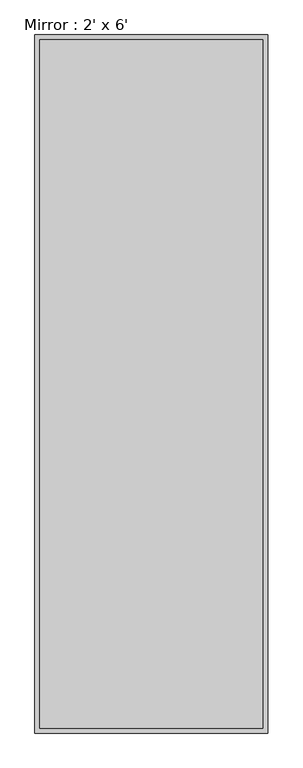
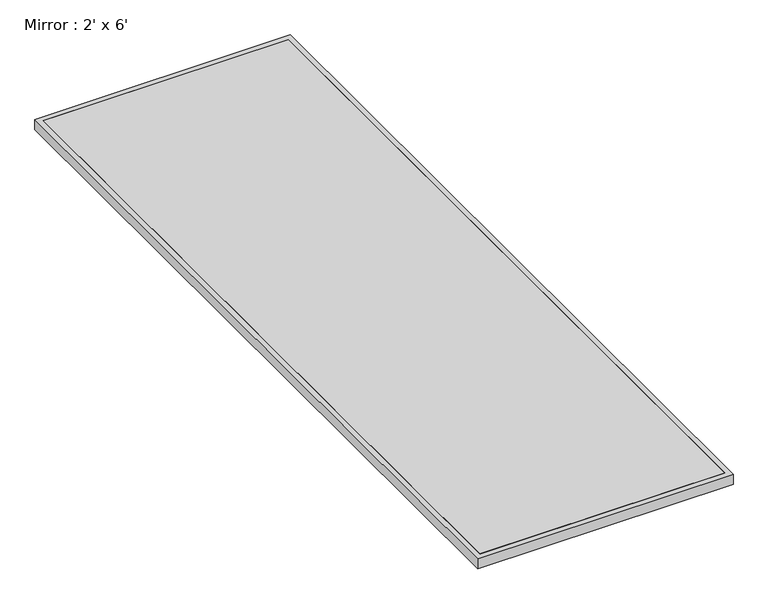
"""IFC4 building model written with IfcOpenShell, lengths in millimetres: furniture geometry, Mirror : 2' x 6'."""

import ifcopenshell
import ifcopenshell.guid

model = None  # the IFC model being written
_history = None  # IfcOwnerHistory: only IFC2X3 demands one
_inside = {}  # id of a spatial element -> (the spatial element, [elements in it])
_under = {}  # id of a project, library or spatial element -> (it, [spatial elements below it])
_declared = {}  # id of a project -> (the project, [libraries it declares])
_typed = {}  # id of a type object -> (the type object, [elements of that type])
_made_of = {}  # id of a material, layer set ... -> (it, [elements and type objects made of it])


def new_model(schema):
    """Start an empty IFC model of exactly this schema.

    Asked for "IFC4X3", IfcOpenShell would pick the latest addendum, in which some entities
    have other attributes; the version numbers below select the first issue.
    IFC2X3 requires an IfcOwnerHistory on every rooted entity: one is made here for all.
    """
    global model, _history
    if schema == "IFC4X3":
        model = ifcopenshell.file(schema_version=(4, 3, 0, 0))
    else:
        model = ifcopenshell.file(schema=schema)
    _inside.clear()
    _under.clear()
    _declared.clear()
    _typed.clear()
    _made_of.clear()
    _history = None
    if model.schema == "IFC2X3":
        org = make("IfcOrganization", Name="unknown")
        user = make(
            "IfcPersonAndOrganization",
            ThePerson=make("IfcPerson", FamilyName="unknown"),
            TheOrganization=org,
        )
        app = make(
            "IfcApplication",
            ApplicationDeveloper=org,
            Version="unknown",
            ApplicationFullName="unknown",
            ApplicationIdentifier="unknown",
        )
        _history = make(
            "IfcOwnerHistory",
            OwningUser=user,
            OwningApplication=app,
            ChangeAction="ADDED",
            CreationDate=0,
        )
    return model


def make(cls, **values):
    """One entity of the class cls with the attributes given. An attribute that is None is left unset."""
    return model.create_entity(
        cls, **{name: value for name, value in values.items() if value is not None}
    )


def rooted(cls, **values):
    """An entity with a GlobalId (a new one), such as an element, a storey or a relation."""
    return make(cls, GlobalId=ifcopenshell.guid.new(), OwnerHistory=_history, **values)


def si_unit(unit_type, name, prefix=None):
    """IfcSIUnit, for example si_unit("LENGTHUNIT", "METRE", prefix="MILLI")."""
    return make("IfcSIUnit", UnitType=unit_type, Prefix=prefix, Name=name)


def assignment(units):
    """IfcUnitAssignment: the units of a project."""
    return None if units is None else make("IfcUnitAssignment", Units=units)


def point(xyz):
    """IfcCartesianPoint."""
    return None if xyz is None else make("IfcCartesianPoint", Coordinates=xyz)


def direction(xyz):
    """IfcDirection."""
    return None if xyz is None else make("IfcDirection", DirectionRatios=xyz)


def frame(location, z_axis=None, x_axis=None):
    """IfcAxis2Placement3D, a coordinate frame: its origin and axes. An axis left out is left unset."""
    return make(
        "IfcAxis2Placement3D",
        Location=point(location),
        Axis=direction(z_axis),
        RefDirection=direction(x_axis),
    )


def origin():
    """The frame at (0, 0, 0) with its axes left unset."""
    return frame((0.0, 0.0, 0.0))


def origin_with_axes():
    """The frame at (0, 0, 0) with the z axis (0, 0, 1) and the x axis (1, 0, 0) written out."""
    return frame((0.0, 0.0, 0.0), z_axis=(0.0, 0.0, 1.0), x_axis=(1.0, 0.0, 0.0))


def place(relative_to, where):
    """IfcLocalPlacement: puts the frame where relative to a parent placement (None: the world)."""
    return make(
        "IfcLocalPlacement", PlacementRelTo=relative_to, RelativePlacement=where
    )


def context(
    kind, dimensions, precision=None, world=None, true_north=None, identifier=None
):
    """IfcGeometricRepresentationContext, for example the 3D "Model" context."""
    return make(
        "IfcGeometricRepresentationContext",
        ContextIdentifier=identifier,
        ContextType=kind,
        CoordinateSpaceDimension=dimensions,
        Precision=precision,
        WorldCoordinateSystem=world,
        TrueNorth=true_north,
    )


def project(units=None, contexts=None):
    """IfcProject with its units and contexts."""
    return rooted(
        "IfcProject",
        Name="project",
        RepresentationContexts=contexts,
        UnitsInContext=assignment(units),
    )


def spatial(cls, under=None, at=None, **own):
    """A site, building, storey or space (cls), placed at a placement, below another one or the project."""
    s = rooted(cls, ObjectPlacement=at, **own)
    if under is not None:
        _under.setdefault(under.id(), (under, []))[1].append(s)
    return s


def polyline(points):
    """IfcPolyline through the points."""
    return make("IfcPolyline", Points=[point(p) for p in points])


def outline(outer, holes=None, kind="AREA"):
    """IfcArbitraryClosedProfileDef: a profile drawn as a closed curve; with holes, ...WithVoids."""
    if holes is None:
        return make("IfcArbitraryClosedProfileDef", ProfileType=kind, OuterCurve=outer)
    return make(
        "IfcArbitraryProfileDefWithVoids",
        ProfileType=kind,
        OuterCurve=outer,
        InnerCurves=holes,
    )


def extrude(swept, where, along, depth):
    """IfcExtrudedAreaSolid: the profile swept, set in the frame where, extruded along a direction by depth."""
    return make(
        "IfcExtrudedAreaSolid",
        SweptArea=swept,
        Position=where,
        ExtrudedDirection=direction(along),
        Depth=depth,
    )


def shape(context_of_items, identifier, shape_type, items):
    """IfcShapeRepresentation: the items that make up one representation, for example the "Body"."""
    return make(
        "IfcShapeRepresentation",
        ContextOfItems=context_of_items,
        RepresentationIdentifier=identifier,
        RepresentationType=shape_type,
        Items=items,
    )


def source(mapping_origin, context_of_items, identifier, shape_type, items):
    """IfcRepresentationMap: a shape defined once, which mapped items show again and again."""
    return make(
        "IfcRepresentationMap",
        MappingOrigin=mapping_origin,
        MappedRepresentation=shape(context_of_items, identifier, shape_type, items),
    )


def transform(
    local_origin,
    x_axis=None,
    y_axis=None,
    z_axis=None,
    scale=None,
    scale2=None,
    scale3=None,
    uniform=True,
):
    """IfcCartesianTransformationOperator3D, or its non-uniform kind. x_axis, y_axis, z_axis: its Axis1, 2, 3."""
    if uniform:
        return make(
            "IfcCartesianTransformationOperator3D",
            Axis1=direction(x_axis),
            Axis2=direction(y_axis),
            LocalOrigin=point(local_origin),
            Scale=scale,
            Axis3=direction(z_axis),
        )
    return make(
        "IfcCartesianTransformationOperator3DnonUniform",
        Axis1=direction(x_axis),
        Axis2=direction(y_axis),
        LocalOrigin=point(local_origin),
        Scale=scale,
        Axis3=direction(z_axis),
        Scale2=scale2,
        Scale3=scale3,
    )


def mapped(mapping_source, mapping_target):
    """IfcMappedItem: shows the shape of a source again, moved by a transform."""
    return make(
        "IfcMappedItem", MappingSource=mapping_source, MappingTarget=mapping_target
    )


def made_of(thing, what):
    """Note that an element or type object is made of a material, layer set ...; save() writes the relation."""
    if what is not None:
        _made_of.setdefault(what.id(), (what, []))[1].append(thing)
    return thing


def element(
    cls,
    number,
    at=None,
    inside=None,
    cuts=None,
    type_object=None,
    material=None,
    context=None,
    identifier="Body",
    shape_type=None,
    held_by="IfcProductDefinitionShape",
    body=None,
    shapes=None,
    **own,
):
    """One element of the class cls, such as IfcWall. Its Tag is "e" and its number.

    at: its placement. inside: the storey or other place that contains it. cuts: it is an
    opening in that element (IfcRelVoidsElement). A single representation is given by context,
    identifier, shape_type and body (its items); several are given by shapes. held_by: the class
    of the entity that holds the representations. save() writes the other relations.
    """
    e = rooted(cls, Tag="e%d" % number, ObjectPlacement=at, **own)
    if body is not None:
        shapes = [shape(context, identifier, shape_type, body)]
    if shapes is not None:
        e.Representation = make(held_by, Representations=shapes)
    if inside is not None:
        _inside.setdefault(inside.id(), (inside, []))[1].append(e)
    if cuts is not None:
        rooted(
            "IfcRelVoidsElement", RelatingBuildingElement=cuts, RelatedOpeningElement=e
        )
    if type_object is not None:
        _typed.setdefault(type_object.id(), (type_object, []))[1].append(e)
    return made_of(e, material)


def aggregate(whole, parts):
    """IfcRelAggregates: a whole, such as a stair, and the parts it consists of."""
    return rooted("IfcRelAggregates", RelatingObject=whole, RelatedObjects=parts)


def save(model, path):
    """Write the relations noted so far, then the file.

    IfcRelAggregates (storeys below a building ...), IfcRelContainedInSpatialStructure (elements
    in a storey), IfcRelDefinesByType, IfcRelAssociatesMaterial and IfcRelDeclares: one each for
    every whole, place, type object, material and project.
    """
    for whole, parts in _under.values():
        aggregate(whole, parts)
    for where, things in _inside.values():
        rooted(
            "IfcRelContainedInSpatialStructure",
            RelatedElements=things,
            RelatingStructure=where,
        )
    for kind, things in _typed.values():
        rooted("IfcRelDefinesByType", RelatedObjects=things, RelatingType=kind)
    for what, things in _made_of.values():
        rooted("IfcRelAssociatesMaterial", RelatedObjects=things, RelatingMaterial=what)
    for by, libraries in _declared.values():
        rooted("IfcRelDeclares", RelatingContext=by, RelatedDefinitions=libraries)
    model.write(path)


def mirror_2_x_6_381cc33e(model_context):
    return source(origin(), model_context, "Body", "SweptSolid", [
        extrude(outline(polyline([(292.1, -901.7), (-292.1, -901.7), (-292.1, 901.7), (292.1, 901.7), (292.1, -901.7)])), origin_with_axes(), (0.0, 0.0, 1.0), 25.4),
        extrude(outline(polyline([(304.8, -914.4), (-304.8, -914.4), (-304.8, 914.4), (304.8, 914.4), (304.8, -914.4)]), holes=[polyline([(292.1, -901.7), (292.1, 901.7), (-292.1, 901.7), (-292.1, -901.7), (292.1, -901.7)])]), origin_with_axes(), (0.0, 0.0, 1.0), 25.4),
    ])


if __name__ == "__main__":
    model = new_model("IFC4")
    model_context = context("Model", 3, world=origin())
    ifc_project = project(units=[si_unit("LENGTHUNIT", "METRE", prefix="MILLI")], contexts=[model_context])
    site = spatial("IfcSite", under=ifc_project)
    building = spatial("IfcBuilding", under=site)
    placement = place(None, origin())
    mirror_2_x_6_shape = mirror_2_x_6_381cc33e(model_context)
    element("IfcFurniture", 1, ObjectType="Mirror : 2' x 6'", at=placement, inside=building, context=model_context, shape_type="MappedRepresentation", body=[
        mapped(mirror_2_x_6_shape, transform((0.0, 0.0, 0.0), x_axis=(1.0, 0.0, 0.0), y_axis=(0.0, 1.0, 0.0), z_axis=(0.0, 0.0, 1.0))),
    ])
    save(model, "model.ifc")
